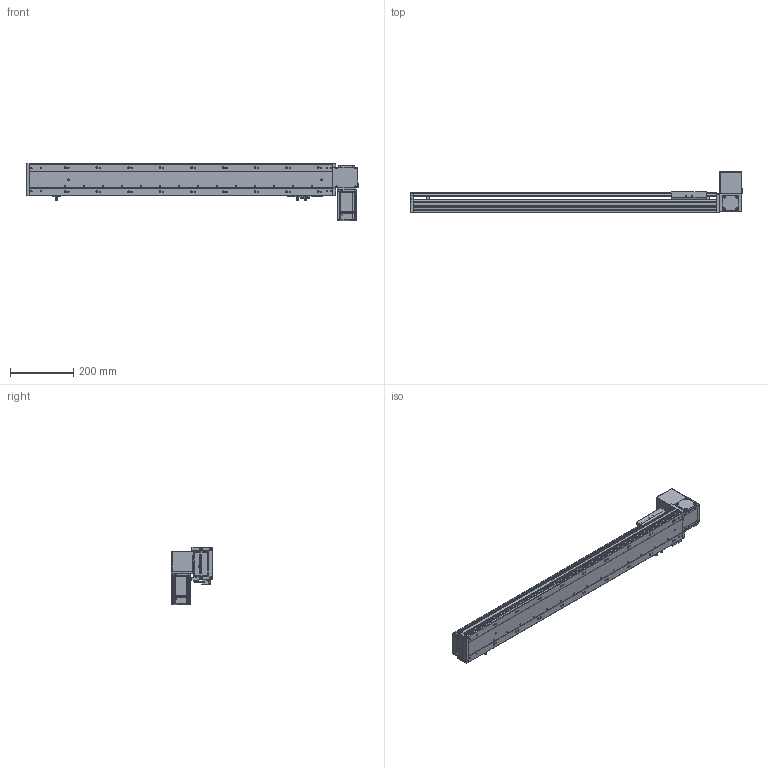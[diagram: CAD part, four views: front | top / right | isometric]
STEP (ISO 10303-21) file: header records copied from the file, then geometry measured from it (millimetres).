
FILE_DESCRIPTION (( 'STEP AP203' ), '1' );
FILE_NAME ('RY100-T-300-UL.SLDASM_750.step', '2024-04-25T08:39:41', ( '盈信电脑' ), ( '东莞市道滘镇水果街19号' ), 'SwSTEP 2.0', 'SolidWorks 2016', '' );
FILE_SCHEMA (( 'CONFIG_CONTROL_DESIGN' ));
Length unit declared in the file: millimetre
Products named in the file (15): 覜茼ん672; RY100綴裔啣; RY100-T肮祭謫臏賑輸; RY100-T-300-UL.SLDASM_750; RY100-T粣創揤踡裔; 1; RY100-T翋肮祭謫裔啣; RY80-T肮祭謫奻殏俋欶; RY100-T肮祭謫翋盓傅釱; RY100-T-300-RK倰第奻裔_750; RY100俋离覜茼え; RY100-T翋肮祭謫裔啣2; RY100-T左右折电机安装板; 滅袉蝶18-10; RY100-T-300-RK倰第菁釱_750
Assembly tree (17 placements, depth 2):
  RY100-T-300-UL.SLDASM_750
    RY100-T-300-RK倰第菁釱_750
    RY100-T-300-RK倰第奻裔_750
    RY100-T肮祭謫臏賑輸
    RY100綴裔啣
    覜茼ん672  x3
    RY100俋离覜茼え
    RY100-T肮祭謫翋盓傅釱
    滅袉蝶18-10  x2
    RY100-T翋肮祭謫裔啣2
    RY100-T翋肮祭謫裔啣
    1
    RY100-T左右折电机安装板
    RY80-T肮祭謫奻殏俋欶
    RY100-T粣創揤踡裔
Bounding box: 1050 x 130.5 x 182.5 mm (x, y, z)
Volume: 2224471 mm3; surface area: 905291.5 mm2
Topology: 17 solids, 17 shells, 2235 faces, 6227 edges, 4045 vertices
Faces by surface type: plane 1211, cylinder 811, cone 135, bspline 78
Entity records: 72293 total; most frequent: CARTESIAN_POINT 17585, ORIENTED_EDGE 11286, DIRECTION 10717, EDGE_CURVE 5643, VERTEX_POINT 3713, VECTOR 3633, LINE 3633, AXIS2_PLACEMENT_3D 3542
